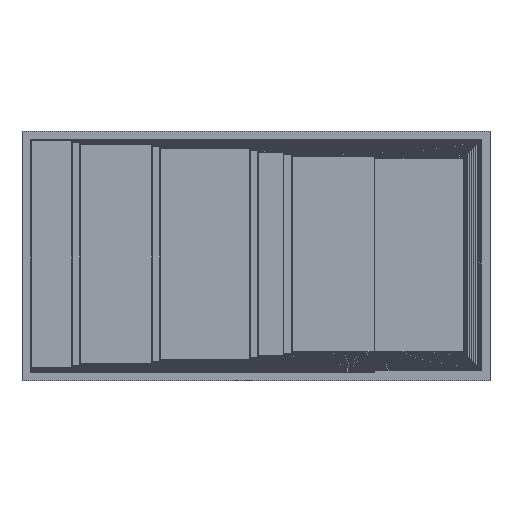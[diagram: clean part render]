
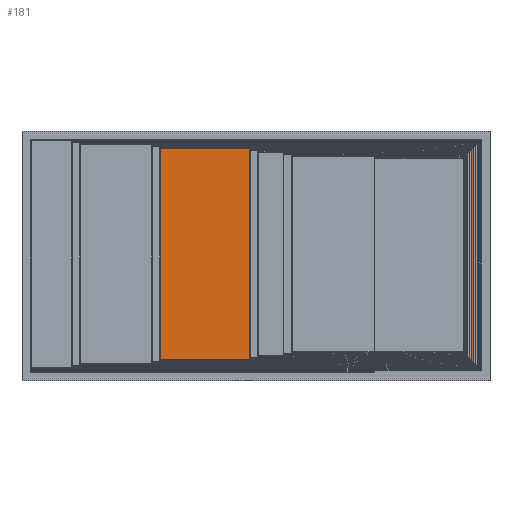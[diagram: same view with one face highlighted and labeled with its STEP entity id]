
A CAD part, front view. The second image highlights one B-rep face of the part: STEP entity #181.
In plain terms, the highlighted planar face has unit normal (0, -1, 0).
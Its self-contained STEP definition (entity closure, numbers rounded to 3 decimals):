
#181=ADVANCED_FACE('',(#464),#465,.F.);
#464=FACE_OUTER_BOUND('',#758,.T.);
#465=PLANE('',#759);
#758=EDGE_LOOP('',(#1842,#1843,#1844,#1845,#1846,#1847,#1848,#1849,#1850,#1851,#1852,#1853));
#759=AXIS2_PLACEMENT_3D('',#1854,#1855,#1856);
#1842=ORIENTED_EDGE('',*,*,#2151,.T.);
#1843=ORIENTED_EDGE('',*,*,#2186,.T.);
#1844=ORIENTED_EDGE('',*,*,#2254,.T.);
#1845=ORIENTED_EDGE('',*,*,#2261,.T.);
#1846=ORIENTED_EDGE('',*,*,#2262,.T.);
#1847=ORIENTED_EDGE('',*,*,#2193,.T.);
#1848=ORIENTED_EDGE('',*,*,#2122,.T.);
#1849=ORIENTED_EDGE('',*,*,#2315,.T.);
#1850=ORIENTED_EDGE('',*,*,#2320,.T.);
#1851=ORIENTED_EDGE('',*,*,#2319,.T.);
#1852=ORIENTED_EDGE('',*,*,#2316,.T.);
#1853=ORIENTED_EDGE('',*,*,#2195,.T.);
#1854=CARTESIAN_POINT('',(5.0,360.2,-1.25));
#1855=DIRECTION('',(0.0,1.0,0.0));
#1856=DIRECTION('',(0.0,0.0,1.0));
#2122=EDGE_CURVE('',#2642,#2644,#2646,.T.);
#2151=EDGE_CURVE('',#2694,#2692,#2695,.T.);
#2186=EDGE_CURVE('',#2692,#2747,#2749,.T.);
#2193=EDGE_CURVE('',#2759,#2642,#2760,.T.);
#2195=EDGE_CURVE('',#2762,#2694,#2763,.T.);
#2254=EDGE_CURVE('',#2747,#2847,#2849,.T.);
#2261=EDGE_CURVE('',#2847,#2857,#2859,.T.);
#2262=EDGE_CURVE('',#2857,#2759,#2860,.T.);
#2315=EDGE_CURVE('',#2644,#2933,#2935,.T.);
#2316=EDGE_CURVE('',#2936,#2762,#2937,.T.);
#2319=EDGE_CURVE('',#2939,#2936,#2941,.T.);
#2320=EDGE_CURVE('',#2933,#2939,#2942,.T.);
#2642=VERTEX_POINT('',#3428);
#2644=VERTEX_POINT('',#3431);
#2646=LINE('',#3434,#3435);
#2692=VERTEX_POINT('',#3508);
#2694=VERTEX_POINT('',#3511);
#2695=LINE('',#3512,#3513);
#2747=VERTEX_POINT('',#3598);
#2749=LINE('',#3601,#3602);
#2759=VERTEX_POINT('',#3618);
#2760=LINE('',#3619,#3620);
#2762=VERTEX_POINT('',#3623);
#2763=LINE('',#3624,#3625);
#2847=VERTEX_POINT('',#3766);
#2849=LINE('',#3769,#3770);
#2857=VERTEX_POINT('',#3783);
#2859=LINE('',#3786,#3787);
#2860=LINE('',#3788,#3789);
#2933=VERTEX_POINT('',#3913);
#2935=LINE('',#3916,#3917);
#2936=VERTEX_POINT('',#3918);
#2937=LINE('',#3919,#3920);
#2939=VERTEX_POINT('',#3923);
#2941=LINE('',#3926,#3927);
#2942=LINE('',#3928,#3929);
#3428=CARTESIAN_POINT('',(149.8,360.2,-128.5));
#3431=CARTESIAN_POINT('',(149.8,360.2,-129.9));
#3434=CARTESIAN_POINT('',(149.8,360.2,-65.6));
#3435=VECTOR('',#4170,1.0);
#3508=CARTESIAN_POINT('',(148.8,360.2,-126.1));
#3511=CARTESIAN_POINT('',(148.8,360.2,-127.5));
#3512=CARTESIAN_POINT('',(148.8,360.2,-65.6));
#3513=VECTOR('',#4199,1.0);
#3598=CARTESIAN_POINT('',(-2.6,360.2,-126.1));
#3601=CARTESIAN_POINT('',(70.75,360.2,-126.1));
#3602=VECTOR('',#4234,1.0);
#3618=CARTESIAN_POINT('',(268.0,360.2,-128.5));
#3619=CARTESIAN_POINT('',(-52.875,360.2,-128.5));
#3620=VECTOR('',#4241,1.0);
#3623=CARTESIAN_POINT('',(-111.5,360.2,-127.5));
#3624=CARTESIAN_POINT('',(68.85,360.2,-127.5));
#3625=VECTOR('',#4243,1.0);
#3766=CARTESIAN_POINT('',(-2.6,360.2,128.5));
#3769=CARTESIAN_POINT('',(-2.6,360.2,-0.625));
#3770=VECTOR('',#4302,1.0);
#3783=CARTESIAN_POINT('',(268.0,360.2,128.5));
#3786=CARTESIAN_POINT('',(68.85,360.2,128.5));
#3787=VECTOR('',#4309,1.0);
#3788=CARTESIAN_POINT('',(268.0,360.2,-0.625));
#3789=VECTOR('',#4310,1.0);
#3913=CARTESIAN_POINT('',(269.4,360.2,-129.9));
#3916=CARTESIAN_POINT('',(41.975,360.2,-129.9));
#3917=VECTOR('',#4363,1.0);
#3918=CARTESIAN_POINT('',(-111.5,360.2,129.9));
#3919=CARTESIAN_POINT('',(-111.5,360.2,-0.625));
#3920=VECTOR('',#4364,1.0);
#3923=CARTESIAN_POINT('',(269.4,360.2,129.9));
#3926=CARTESIAN_POINT('',(41.975,360.2,129.9));
#3927=VECTOR('',#4367,1.0);
#3928=CARTESIAN_POINT('',(269.4,360.2,-0.625));
#3929=VECTOR('',#4368,1.0);
#4170=DIRECTION('',(0.0,0.0,-1.0));
#4199=DIRECTION('',(0.0,0.0,1.0));
#4234=DIRECTION('',(-1.0,0.0,0.0));
#4241=DIRECTION('',(-1.0,0.0,0.0));
#4243=DIRECTION('',(1.0,0.0,0.0));
#4302=DIRECTION('',(0.0,0.0,1.0));
#4309=DIRECTION('',(1.0,0.0,0.0));
#4310=DIRECTION('',(0.0,0.0,-1.0));
#4363=DIRECTION('',(1.0,0.0,0.0));
#4364=DIRECTION('',(0.0,0.0,-1.0));
#4367=DIRECTION('',(-1.0,0.0,0.0));
#4368=DIRECTION('',(0.0,-0.0,1.0));
